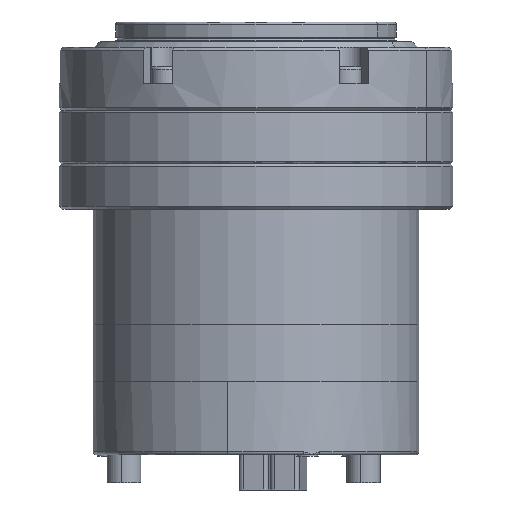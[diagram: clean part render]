
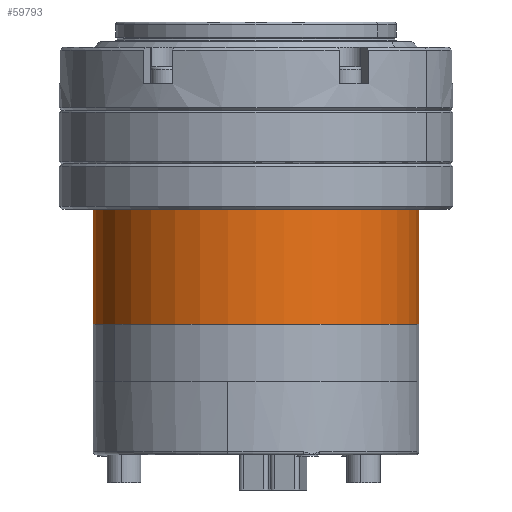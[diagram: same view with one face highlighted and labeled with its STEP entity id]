
A CAD part, front view. The second image highlights one B-rep face of the part: STEP entity #59793.
In plain terms, the highlighted cylindrical face has radius 29 mm (diameter 58 mm), a partial arc.
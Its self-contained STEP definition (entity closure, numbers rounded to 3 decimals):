
#2634 = DIRECTION ( 'NONE',  ( 1., 0., 0. ) ) ;
#3739 = AXIS2_PLACEMENT_3D ( 'NONE', #54067, #76719, #19825 ) ;
#11461 = AXIS2_PLACEMENT_3D ( 'NONE', #66088, #74631, #2634 ) ;
#13323 = FACE_OUTER_BOUND ( 'NONE', #17583, .T. ) ;
#13916 = ORIENTED_EDGE ( 'NONE', *, *, #52600, .T. ) ;
#17583 = EDGE_LOOP ( 'NONE', ( #36350, #13916, #79495, #56804 ) ) ;
#18144 = VECTOR ( 'NONE', #77343, 1000. ) ;
#18857 = CARTESIAN_POINT ( 'NONE',  ( 29., 0., 8.343 ) ) ;
#19825 = DIRECTION ( 'NONE',  ( 1., 0., 0. ) ) ;
#19969 = CARTESIAN_POINT ( 'NONE',  ( 0., 0., -24.5 ) ) ;
#25007 = CIRCLE ( 'NONE', #52349, 29. ) ;
#31964 = CARTESIAN_POINT ( 'NONE',  ( 29., 0., -4. ) ) ;
#34176 = CARTESIAN_POINT ( 'NONE',  ( -29., 0., -4. ) ) ;
#36350 = ORIENTED_EDGE ( 'NONE', *, *, #43426, .F. ) ;
#37151 = VECTOR ( 'NONE', #60554, 1000. ) ;
#42369 = VERTEX_POINT ( 'NONE', #31964 ) ;
#43426 = EDGE_CURVE ( 'NONE', #75610, #105668, #53446, .T. ) ;
#50497 = DIRECTION ( 'NONE',  ( 1., 0., 0. ) ) ;
#52349 = AXIS2_PLACEMENT_3D ( 'NONE', #19969, #99989, #50497 ) ;
#52600 = EDGE_CURVE ( 'NONE', #75610, #96814, #25007, .T. ) ;
#53446 = LINE ( 'NONE', #68646, #37151 ) ;
#54067 = CARTESIAN_POINT ( 'NONE',  ( 0., 0., 8.343 ) ) ;
#56804 = ORIENTED_EDGE ( 'NONE', *, *, #105391, .F. ) ;
#59793 = ADVANCED_FACE ( 'NONE', ( #13323 ), #61701, .T. ) ;
#60554 = DIRECTION ( 'NONE',  ( 0., 0., 1. ) ) ;
#61701 = CYLINDRICAL_SURFACE ( 'NONE', #3739, 29. ) ;
#66088 = CARTESIAN_POINT ( 'NONE',  ( 0., 0., -4. ) ) ;
#68646 = CARTESIAN_POINT ( 'NONE',  ( -29., 0., 8.343 ) ) ;
#74631 = DIRECTION ( 'NONE',  ( 0., 0., 1. ) ) ;
#75610 = VERTEX_POINT ( 'NONE', #88737 ) ;
#76719 = DIRECTION ( 'NONE',  ( 0., 0., 1. ) ) ;
#77343 = DIRECTION ( 'NONE',  ( 0., 0., 1. ) ) ;
#79441 = EDGE_CURVE ( 'NONE', #96814, #42369, #100460, .T. ) ;
#79495 = ORIENTED_EDGE ( 'NONE', *, *, #79441, .T. ) ;
#83599 = CARTESIAN_POINT ( 'NONE',  ( 29., 0., -24.5 ) ) ;
#86919 = CIRCLE ( 'NONE', #11461, 29. ) ;
#88737 = CARTESIAN_POINT ( 'NONE',  ( -29., 0., -24.5 ) ) ;
#96814 = VERTEX_POINT ( 'NONE', #83599 ) ;
#99989 = DIRECTION ( 'NONE',  ( 0., 0., 1. ) ) ;
#100460 = LINE ( 'NONE', #18857, #18144 ) ;
#105391 = EDGE_CURVE ( 'NONE', #105668, #42369, #86919, .T. ) ;
#105668 = VERTEX_POINT ( 'NONE', #34176 ) ;
